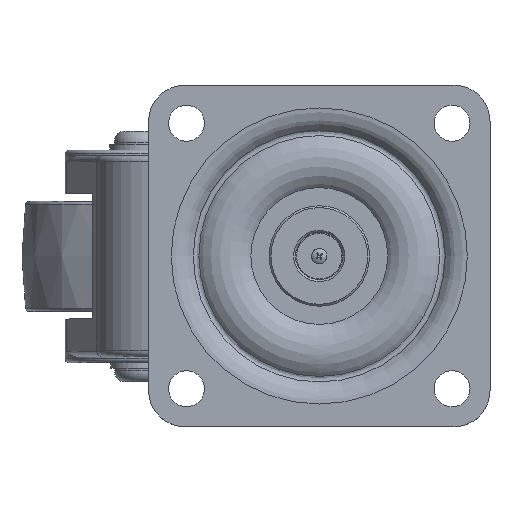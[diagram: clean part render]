
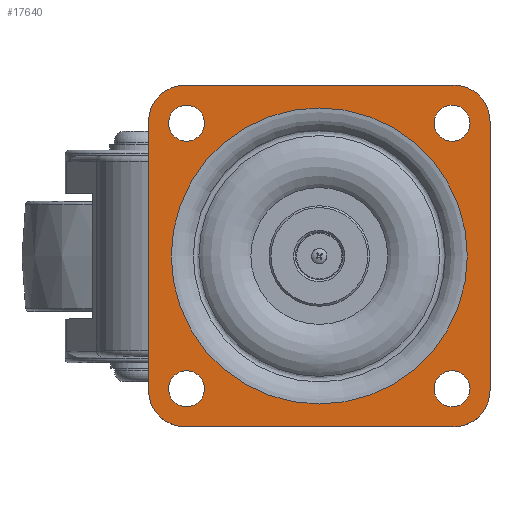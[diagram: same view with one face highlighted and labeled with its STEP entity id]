
A CAD part, top view. The second image highlights one B-rep face of the part: STEP entity #17640.
In plain terms, the highlighted planar face has unit normal (0, 0, 1).
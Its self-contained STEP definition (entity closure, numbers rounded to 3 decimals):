
#17090=CARTESIAN_POINT('',(88.67,-104.019,56.579));
#17091=VERTEX_POINT('',#17090);
#17098=CARTESIAN_POINT('',(17.67,-104.019,56.579));
#17099=VERTEX_POINT('',#17098);
#17100=CARTESIAN_POINT('',(88.67,-104.019,56.579));
#17101=DIRECTION('',(-1.0,0.0,0.0));
#17102=VECTOR('',#17101,71.);
#17103=LINE('',#17100,#17102);
#17104=EDGE_CURVE('',#17091,#17099,#17103,.T.);
#17129=CARTESIAN_POINT('',(98.17,-94.519,56.579));
#17130=VERTEX_POINT('',#17129);
#17137=CARTESIAN_POINT('',(88.67,-94.519,56.579));
#17138=DIRECTION('',(0.0,0.0,-1.0));
#17139=DIRECTION('',(0.0,-1.0,0.0));
#17140=AXIS2_PLACEMENT_3D('',#17137,#17138,#17139);
#17141=CIRCLE('',#17140,9.5);
#17142=EDGE_CURVE('',#17130,#17091,#17141,.T.);
#17161=CARTESIAN_POINT('',(98.17,-23.519,56.579));
#17162=VERTEX_POINT('',#17161);
#17169=CARTESIAN_POINT('',(98.17,-23.519,56.579));
#17170=DIRECTION('',(0.0,-1.0,0.0));
#17171=VECTOR('',#17170,71.);
#17172=LINE('',#17169,#17171);
#17173=EDGE_CURVE('',#17162,#17130,#17172,.T.);
#17193=CARTESIAN_POINT('',(88.67,-14.019,56.579));
#17194=VERTEX_POINT('',#17193);
#17201=CARTESIAN_POINT('',(88.67,-23.519,56.579));
#17202=DIRECTION('',(0.0,0.0,-1.0));
#17203=DIRECTION('',(1.0,0.0,0.0));
#17204=AXIS2_PLACEMENT_3D('',#17201,#17202,#17203);
#17205=CIRCLE('',#17204,9.5);
#17206=EDGE_CURVE('',#17194,#17162,#17205,.T.);
#17317=CARTESIAN_POINT('',(92.92,-24.019,56.579));
#17318=VERTEX_POINT('',#17317);
#17319=CARTESIAN_POINT('',(88.17,-24.019,56.579));
#17320=DIRECTION('',(0.0,0.0,1.0));
#17321=DIRECTION('',(-1.0,0.0,0.0));
#17322=AXIS2_PLACEMENT_3D('',#17319,#17320,#17321);
#17323=CIRCLE('',#17322,4.75);
#17324=EDGE_CURVE('',#17318,#17318,#17323,.T.);
#17345=CARTESIAN_POINT('',(92.92,-94.019,56.579));
#17346=VERTEX_POINT('',#17345);
#17347=CARTESIAN_POINT('',(88.17,-94.019,56.579));
#17348=DIRECTION('',(0.0,0.0,1.0));
#17349=DIRECTION('',(-1.0,0.0,0.0));
#17350=AXIS2_PLACEMENT_3D('',#17347,#17348,#17349);
#17351=CIRCLE('',#17350,4.75);
#17352=EDGE_CURVE('',#17346,#17346,#17351,.T.);
#17373=CARTESIAN_POINT('',(22.92,-94.019,56.579));
#17374=VERTEX_POINT('',#17373);
#17375=CARTESIAN_POINT('',(18.17,-94.019,56.579));
#17376=DIRECTION('',(0.0,0.0,1.0));
#17377=DIRECTION('',(-1.0,0.0,0.0));
#17378=AXIS2_PLACEMENT_3D('',#17375,#17376,#17377);
#17379=CIRCLE('',#17378,4.75);
#17380=EDGE_CURVE('',#17374,#17374,#17379,.T.);
#17401=CARTESIAN_POINT('',(22.92,-24.019,56.579));
#17402=VERTEX_POINT('',#17401);
#17403=CARTESIAN_POINT('',(18.17,-24.019,56.579));
#17404=DIRECTION('',(0.0,0.0,1.0));
#17405=DIRECTION('',(-1.0,0.0,0.0));
#17406=AXIS2_PLACEMENT_3D('',#17403,#17404,#17405);
#17407=CIRCLE('',#17406,4.75);
#17408=EDGE_CURVE('',#17402,#17402,#17407,.T.);
#17426=CARTESIAN_POINT('',(17.67,-14.019,56.579));
#17427=VERTEX_POINT('',#17426);
#17434=CARTESIAN_POINT('',(17.67,-14.019,56.579));
#17435=DIRECTION('',(1.0,0.0,0.0));
#17436=VECTOR('',#17435,71.);
#17437=LINE('',#17434,#17436);
#17438=EDGE_CURVE('',#17427,#17194,#17437,.T.);
#17459=CARTESIAN_POINT('',(8.17,-94.519,56.579));
#17460=VERTEX_POINT('',#17459);
#17461=CARTESIAN_POINT('',(17.67,-94.519,56.579));
#17462=DIRECTION('',(0.0,0.0,-1.0));
#17463=DIRECTION('',(-1.0,0.0,0.0));
#17464=AXIS2_PLACEMENT_3D('',#17461,#17462,#17463);
#17465=CIRCLE('',#17464,9.5);
#17466=EDGE_CURVE('',#17099,#17460,#17465,.T.);
#17491=CARTESIAN_POINT('',(8.17,-23.519,56.579));
#17492=VERTEX_POINT('',#17491);
#17493=CARTESIAN_POINT('',(8.17,-94.519,56.579));
#17494=DIRECTION('',(0.0,1.0,0.0));
#17495=VECTOR('',#17494,71.);
#17496=LINE('',#17493,#17495);
#17497=EDGE_CURVE('',#17460,#17492,#17496,.T.);
#17521=CARTESIAN_POINT('',(17.67,-23.519,56.579));
#17522=DIRECTION('',(0.0,0.0,-1.0));
#17523=DIRECTION('',(0.0,1.0,0.0));
#17524=AXIS2_PLACEMENT_3D('',#17521,#17522,#17523);
#17525=CIRCLE('',#17524,9.5);
#17526=EDGE_CURVE('',#17492,#17427,#17525,.T.);
#17602=CARTESIAN_POINT('',(53.17,-119.534,56.579));
#17603=DIRECTION('',(0.0,0.0,1.0));
#17604=DIRECTION('',(1.0,0.0,0.0));
#17605=AXIS2_PLACEMENT_3D('',#17602,#17603,#17604);
#17606=PLANE('',#17605);
#17607=ORIENTED_EDGE('',*,*,#17438,.F.);
#17608=ORIENTED_EDGE('',*,*,#17526,.F.);
#17609=ORIENTED_EDGE('',*,*,#17497,.F.);
#17610=ORIENTED_EDGE('',*,*,#17466,.F.);
#17611=ORIENTED_EDGE('',*,*,#17104,.F.);
#17612=ORIENTED_EDGE('',*,*,#17142,.F.);
#17613=ORIENTED_EDGE('',*,*,#17173,.F.);
#17614=ORIENTED_EDGE('',*,*,#17206,.F.);
#17615=EDGE_LOOP('',(#17607,#17608,#17609,#17610,#17611,#17612,#17613,#17614));
#17616=FACE_OUTER_BOUND('',#17615,.T.);
#17617=ORIENTED_EDGE('',*,*,#17408,.F.);
#17618=EDGE_LOOP('',(#17617));
#17619=FACE_BOUND('',#17618,.T.);
#17620=ORIENTED_EDGE('',*,*,#17380,.F.);
#17621=EDGE_LOOP('',(#17620));
#17622=FACE_BOUND('',#17621,.T.);
#17623=ORIENTED_EDGE('',*,*,#17352,.F.);
#17624=EDGE_LOOP('',(#17623));
#17625=FACE_BOUND('',#17624,.T.);
#17626=ORIENTED_EDGE('',*,*,#17324,.F.);
#17627=EDGE_LOOP('',(#17626));
#17628=FACE_BOUND('',#17627,.T.);
#17629=CARTESIAN_POINT('',(53.17,-98.05,56.579));
#17630=VERTEX_POINT('',#17629);
#17631=CARTESIAN_POINT('',(53.17,-59.019,56.579));
#17632=DIRECTION('',(0.0,0.0,1.0));
#17633=DIRECTION('',(0.0,-1.0,0.0));
#17634=AXIS2_PLACEMENT_3D('',#17631,#17632,#17633);
#17635=CIRCLE('',#17634,39.031);
#17636=EDGE_CURVE('',#17630,#17630,#17635,.T.);
#17637=ORIENTED_EDGE('',*,*,#17636,.F.);
#17638=EDGE_LOOP('',(#17637));
#17639=FACE_BOUND('',#17638,.T.);
#17640=ADVANCED_FACE('',(#17616,#17619,#17622,#17625,#17628,#17639),#17606,.T.);
